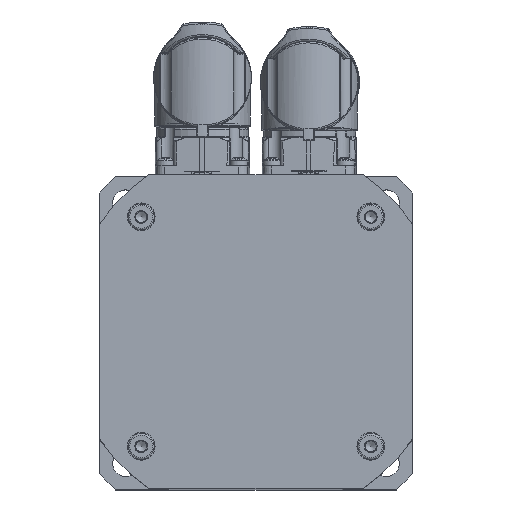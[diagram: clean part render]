
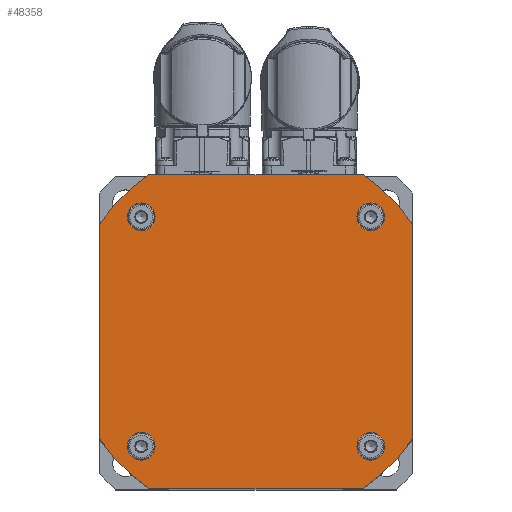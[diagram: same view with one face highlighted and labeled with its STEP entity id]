
A CAD part, top view. The second image highlights one B-rep face of the part: STEP entity #48358.
In plain terms, the highlighted planar face has unit normal (0, 0, 1).
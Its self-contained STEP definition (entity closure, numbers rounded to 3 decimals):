
#7391=LINE('',#70137,#9156);
#7397=LINE('',#70172,#9162);
#7400=LINE('',#70180,#9165);
#7404=LINE('',#70188,#9169);
#9156=VECTOR('',#57224,58.172);
#9162=VECTOR('',#57268,58.172);
#9165=VECTOR('',#57277,58.172);
#9169=VECTOR('',#57287,58.172);
#10887=PLANE('',#51540);
#11491=FACE_BOUND('',#15039,.T.);
#11492=FACE_BOUND('',#15040,.T.);
#11493=FACE_BOUND('',#15041,.T.);
#11494=FACE_BOUND('',#15042,.T.);
#11495=FACE_BOUND('',#15043,.T.);
#15039=EDGE_LOOP('',(#33265));
#15040=EDGE_LOOP('',(#33266));
#15041=EDGE_LOOP('',(#33267));
#15042=EDGE_LOOP('',(#33268));
#15043=EDGE_LOOP('',(#33269,#33270,#33271,#33272,#33273,#33274,#33275,#33276));
#18445=CIRCLE('',#51513,51.5);
#18446=CIRCLE('',#51516,3.75);
#18448=CIRCLE('',#51520,3.75);
#18450=CIRCLE('',#51524,3.75);
#18452=CIRCLE('',#51528,3.75);
#18454=CIRCLE('',#51532,51.5);
#18455=CIRCLE('',#51535,51.5);
#18456=CIRCLE('',#51538,51.5);
#21231=VERTEX_POINT('',#70130);
#21232=VERTEX_POINT('',#70132);
#21233=VERTEX_POINT('',#70136);
#21234=VERTEX_POINT('',#70141);
#21236=VERTEX_POINT('',#70147);
#21238=VERTEX_POINT('',#70153);
#21240=VERTEX_POINT('',#70159);
#21242=VERTEX_POINT('',#70165);
#21243=VERTEX_POINT('',#70167);
#21244=VERTEX_POINT('',#70174);
#21245=VERTEX_POINT('',#70179);
#21246=VERTEX_POINT('',#70183);
#25813=EDGE_CURVE('',#21232,#21231,#18445,.T.);
#25815=EDGE_CURVE('',#21233,#21232,#7391,.T.);
#25818=EDGE_CURVE('',#21234,#21234,#18446,.T.);
#25820=EDGE_CURVE('',#21236,#21236,#18448,.T.);
#25822=EDGE_CURVE('',#21238,#21238,#18450,.T.);
#25824=EDGE_CURVE('',#21240,#21240,#18452,.T.);
#25827=EDGE_CURVE('',#21243,#21242,#18454,.T.);
#25830=EDGE_CURVE('',#21231,#21243,#7397,.T.);
#25831=EDGE_CURVE('',#21244,#21233,#18455,.T.);
#25834=EDGE_CURVE('',#21245,#21244,#7400,.T.);
#25836=EDGE_CURVE('',#21246,#21245,#18456,.T.);
#25839=EDGE_CURVE('',#21242,#21246,#7404,.T.);
#33265=ORIENTED_EDGE('',*,*,#25818,.T.);
#33266=ORIENTED_EDGE('',*,*,#25820,.T.);
#33267=ORIENTED_EDGE('',*,*,#25822,.T.);
#33268=ORIENTED_EDGE('',*,*,#25824,.T.);
#33269=ORIENTED_EDGE('',*,*,#25839,.T.);
#33270=ORIENTED_EDGE('',*,*,#25836,.T.);
#33271=ORIENTED_EDGE('',*,*,#25834,.T.);
#33272=ORIENTED_EDGE('',*,*,#25831,.T.);
#33273=ORIENTED_EDGE('',*,*,#25815,.T.);
#33274=ORIENTED_EDGE('',*,*,#25813,.T.);
#33275=ORIENTED_EDGE('',*,*,#25830,.T.);
#33276=ORIENTED_EDGE('',*,*,#25827,.T.);
#48358=ADVANCED_FACE('',(#11491,#11492,#11493,#11494,#11495),#10887,.T.);
#51513=AXIS2_PLACEMENT_3D('',#70133,#57219,#57220);
#51516=AXIS2_PLACEMENT_3D('',#70142,#57229,#57230);
#51520=AXIS2_PLACEMENT_3D('',#70148,#57237,#57238);
#51524=AXIS2_PLACEMENT_3D('',#70154,#57245,#57246);
#51528=AXIS2_PLACEMENT_3D('',#70160,#57253,#57254);
#51532=AXIS2_PLACEMENT_3D('',#70168,#57262,#57263);
#51535=AXIS2_PLACEMENT_3D('',#70175,#57271,#57272);
#51538=AXIS2_PLACEMENT_3D('',#70184,#57281,#57282);
#51540=AXIS2_PLACEMENT_3D('',#70189,#57288,#57289);
#57219=DIRECTION('center_axis',(0.,0.,1.));
#57220=DIRECTION('ref_axis',(0.565,-0.825,0.));
#57224=DIRECTION('',(1.,0.,0.));
#57229=DIRECTION('center_axis',(0.,0.,-1.));
#57230=DIRECTION('ref_axis',(0.,-1.,0.));
#57237=DIRECTION('center_axis',(0.,0.,-1.));
#57238=DIRECTION('ref_axis',(-1.,0.,0.));
#57245=DIRECTION('center_axis',(0.,0.,-1.));
#57246=DIRECTION('ref_axis',(0.,1.,0.));
#57253=DIRECTION('center_axis',(0.,0.,-1.));
#57254=DIRECTION('ref_axis',(1.,0.,0.));
#57262=DIRECTION('center_axis',(0.,0.,1.));
#57263=DIRECTION('ref_axis',(0.825,0.565,0.));
#57268=DIRECTION('',(0.,1.,0.));
#57271=DIRECTION('center_axis',(0.,0.,1.));
#57272=DIRECTION('ref_axis',(-0.825,-0.565,0.));
#57277=DIRECTION('',(0.,-1.,0.));
#57281=DIRECTION('center_axis',(0.,0.,1.));
#57282=DIRECTION('ref_axis',(-0.565,0.825,0.));
#57287=DIRECTION('',(-1.,0.,0.));
#57288=DIRECTION('center_axis',(0.,0.,1.));
#57289=DIRECTION('ref_axis',(1.,0.,0.));
#70130=CARTESIAN_POINT('',(42.5,-29.086,267.6));
#70132=CARTESIAN_POINT('',(29.086,-42.5,267.6));
#70133=CARTESIAN_POINT('Origin',(0.,0.,267.6));
#70136=CARTESIAN_POINT('',(-29.086,-42.5,267.6));
#70137=CARTESIAN_POINT('',(-42.5,-42.5,267.6));
#70141=CARTESIAN_POINT('',(31.113,-34.863,267.6));
#70142=CARTESIAN_POINT('Origin',(31.113,-31.113,267.6));
#70147=CARTESIAN_POINT('',(-34.863,-31.113,267.6));
#70148=CARTESIAN_POINT('Origin',(-31.113,-31.113,267.6));
#70153=CARTESIAN_POINT('',(-31.113,34.863,267.6));
#70154=CARTESIAN_POINT('Origin',(-31.113,31.113,267.6));
#70159=CARTESIAN_POINT('',(34.863,31.113,267.6));
#70160=CARTESIAN_POINT('Origin',(31.113,31.113,267.6));
#70165=CARTESIAN_POINT('',(29.086,42.5,267.6));
#70167=CARTESIAN_POINT('',(42.5,29.086,267.6));
#70168=CARTESIAN_POINT('Origin',(0.,0.,267.6));
#70172=CARTESIAN_POINT('',(42.5,-42.5,267.6));
#70174=CARTESIAN_POINT('',(-42.5,-29.086,267.6));
#70175=CARTESIAN_POINT('Origin',(0.,0.,267.6));
#70179=CARTESIAN_POINT('',(-42.5,29.086,267.6));
#70180=CARTESIAN_POINT('',(-42.5,42.5,267.6));
#70183=CARTESIAN_POINT('',(-29.086,42.5,267.6));
#70184=CARTESIAN_POINT('Origin',(0.,0.,267.6));
#70188=CARTESIAN_POINT('',(42.5,42.5,267.6));
#70189=CARTESIAN_POINT('Origin',(0.,0.,
267.6));
